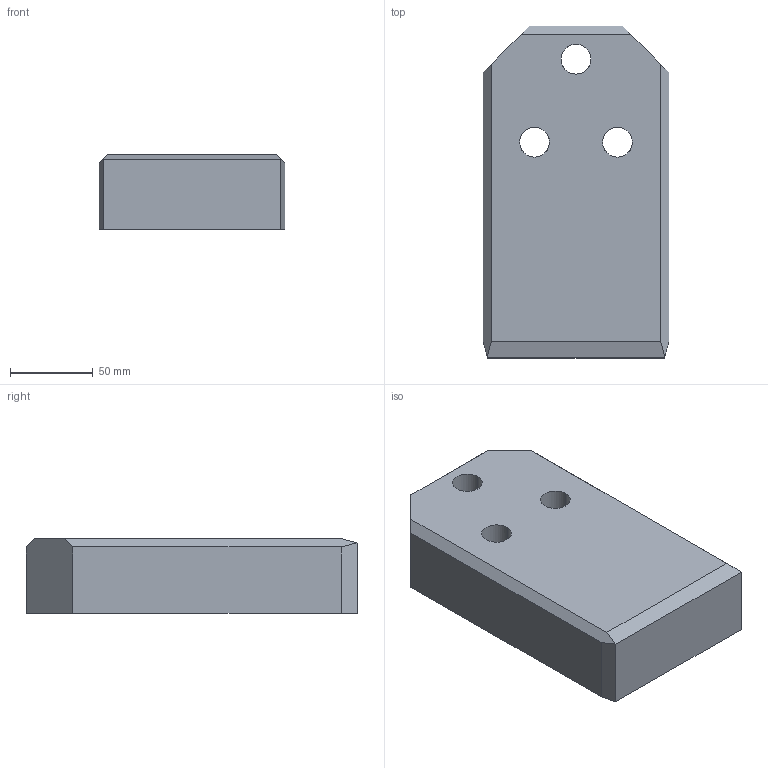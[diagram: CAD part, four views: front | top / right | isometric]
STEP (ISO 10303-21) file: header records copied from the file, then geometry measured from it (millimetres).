
FILE_DESCRIPTION(('CATIA V5 STEP Exchange'),'2;1');
FILE_NAME('C:\Users\borellobunino\Desktop\3D X SITO CF\A927\GSB_OILLESS_G2290511220045\STEP-2.03\A927-112X200X45.stp','2019-07-15T18:43:20+00:00',('none'),('none'),'CATIA Version 5 Release 20 GA (IN-10)','CATIA V5 STEP AP203','none');
FILE_SCHEMA(('CONFIG_CONTROL_DESIGN'));
Length unit declared in the file: millimetre
Products named in the file (1): A927-112X200X45
Bounding box: 112 x 200 x 45 mm (x, y, z)
Volume: 912865 mm3; surface area: 75523.4 mm2
Topology: 1 solids, 1 shells, 35 faces, 84 edges, 54 vertices
Faces by surface type: plane 17, cylinder 12, cone 6
Entity records: 1296 total; most frequent: CARTESIAN_POINT 450, ORIENTED_EDGE 168, DIRECTION 142, EDGE_CURVE 84, AXIS2_PLACEMENT_3D 54, VECTOR 54, LINE 54, VERTEX_POINT 54
